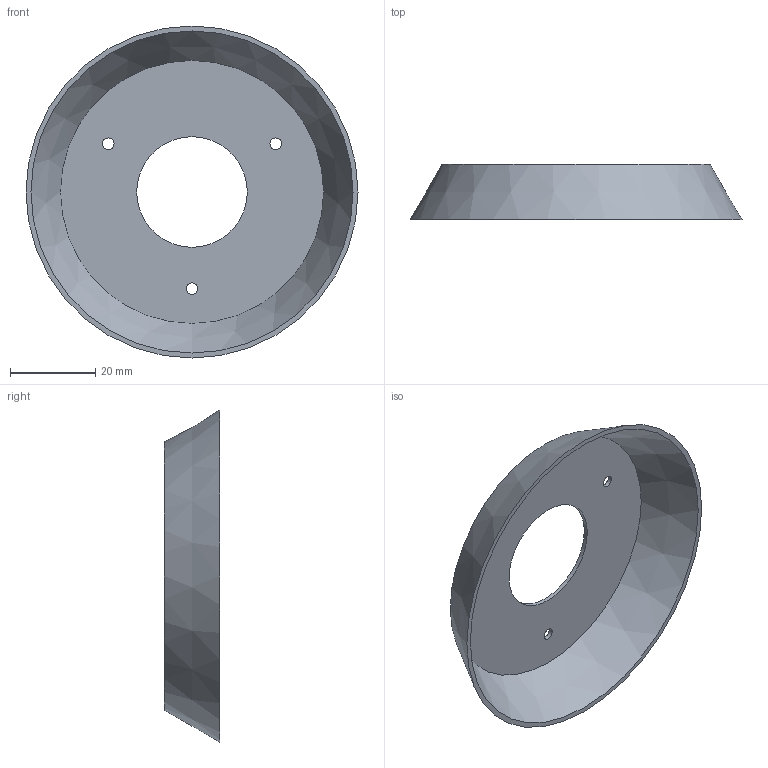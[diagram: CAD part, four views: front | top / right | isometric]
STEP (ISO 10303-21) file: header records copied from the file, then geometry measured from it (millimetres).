
FILE_DESCRIPTION( ( 'STEP AP203' ), '1' );
FILE_NAME( 'C:/Temp/Ganter_Step_05_03_2020/data/1_4/gn_526_1/gn_526_1_b/Scale ring GN 526.1-78-B.stp', '2020-03-05T10:48:54', ( 'License CC BY-ND 4.0' ), ( 'CADENAS' ), ' ', 'PARTsolutions', ' ' );
FILE_SCHEMA( ( 'CONFIG_CONTROL_DESIGN' ) );
Length unit declared in the file: millimetre
Products named in the file (1): _Scale ring GN 526.1-78-B
Bounding box: 78 x 13 x 78 mm (x, y, z)
Volume: 5669.8 mm3; surface area: 11727.9 mm2
Topology: 1 solids, 1 shells, 9 faces, 21 edges, 15 vertices
Faces by surface type: cylinder 4, plane 3, cone 2
Full cylindrical faces by diameter (mm): 2.7 x3, 26 x1
Entity records: 274 total; most frequent: DIRECTION 44, CARTESIAN_POINT 34, EDGE_LOOP 24, ORIENTED_EDGE 24, AXIS2_PLACEMENT_3D 22, FACE_OUTER_BOUND 13, EDGE_CURVE 12, VERTEX_POINT 12
